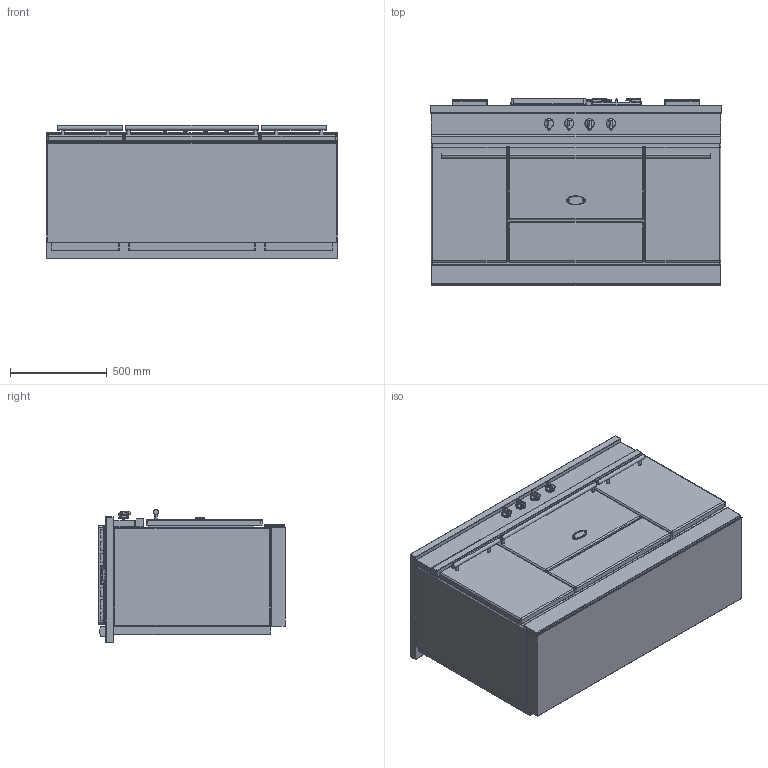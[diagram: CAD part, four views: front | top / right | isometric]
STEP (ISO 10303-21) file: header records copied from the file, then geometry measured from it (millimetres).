
FILE_DESCRIPTION((''),'2;1');
FILE_NAME('LMCF1531__ASM','2022-04-13T14:17:42',('stagiaire'),(''),'CREO PARAMETRIC BY PTC INC, 2021424','CREO PARAMETRIC BY PTC INC, 2021424','');
FILE_SCHEMA(('AP203_CONFIGURATION_CONTROLLED_3D_DESIGN_OF_MECHANICAL_PARTS_AND_ASSEMBLIES_MIM_LF { 1 0 10303 403 2 1 2 }'));
Products named in the file (21): BASE_EXPORT_FONTENAY_LMG1531; 65049009; 65650001; 65064012; 19150009; 88064012_ASM; BASE_EXPORT_FONTENAY_LMG1531_ASM; TABLE_1505_CLASSIQUE_3_FEUX; 5KW; 1_5KW; 3KW; 6537023; 65149005; 90000565_ASM; 65062008; 65062012; 90000549_ASM; CHEMINEE_2020_LG182_EXPORT_STEP; CHEMINEE_2020_LG371_EXPORT_STEP; TABLE_1505_TRADITION_ASM; LMCF1531__ASM
Assembly tree (31 placements, depth 4):
  LMCF1531__ASM
    BASE_EXPORT_FONTENAY_LMG1531_ASM
      BASE_EXPORT_FONTENAY_LMG1531
      65049009
      65650001
      88064012_ASM  x4
        65064012
        19150009
    TABLE_1505_TRADITION_ASM
      TABLE_1505_CLASSIQUE_3_FEUX
      5KW
      1_5KW
      3KW
      90000565_ASM
        6537023
        65149005  x4
      90000549_ASM
        65062008
        65062012
        65149005  x4
      CHEMINEE_2020_LG182_EXPORT_STEP  x2
      CHEMINEE_2020_LG371_EXPORT_STEP
Bounding box: 1505 x 967 x 688.5 mm (x, y, z)
Volume: 549374354.9 mm3; surface area: 13368259.6 mm2
Topology: 33 solids, 33 shells, 5478 faces, 14755 edges, 9321 vertices
Faces by surface type: plane 2483, cylinder 1603, bspline 728, sphere 304, torus 186, cone 152, extrusion 22
Entity records: 206370 total; most frequent: CARTESIAN_POINT 59000, ORIENTED_EDGE 24092, DIRECTION 22242, EDGE_CURVE 12046, PRESENTATION_STYLE_ASSIGNMENT 8841, STYLED_ITEM 8841, CURVE_STYLE 8729, VECTOR 8368
